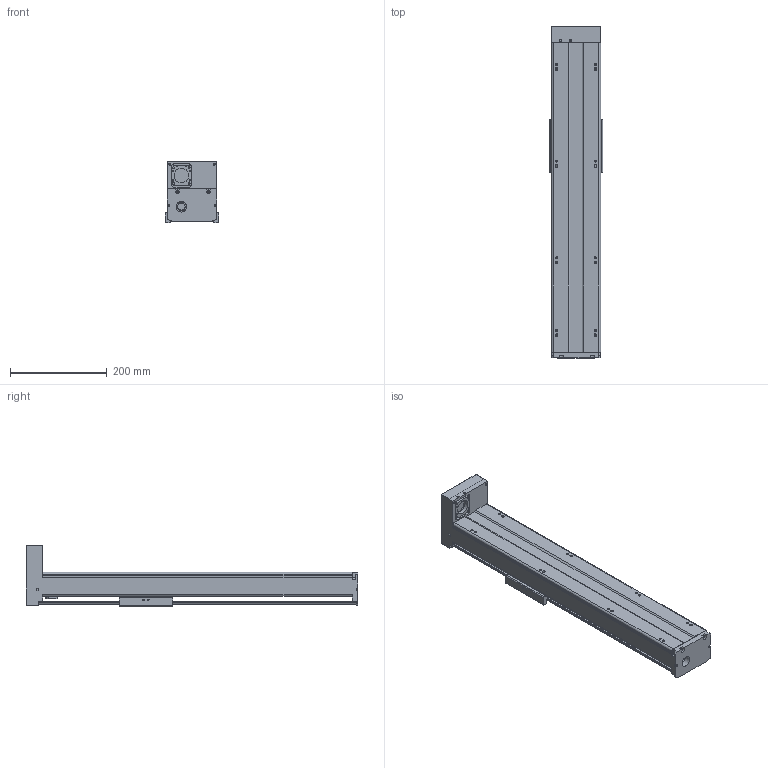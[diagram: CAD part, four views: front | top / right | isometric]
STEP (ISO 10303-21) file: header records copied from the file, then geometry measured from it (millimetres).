
FILE_DESCRIPTION(/* description */ (''),/* implementation_level */ '2;1');
FILE_NAME(/* name */ 'TKA100-FD-450_asm1.stp',/* time_stamp */ '2016-05-16T15:19:46+08:00',/* author */ (''),/* organization */ (''),/* preprocessor_version */ 'ST-DEVELOPER v15',/* originating_system */ 'SIEMENS PLM Software NX 8.5',/* authorisation */ '');
FILE_SCHEMA (('AUTOMOTIVE_DESIGN { 1 0 10303 214 3 1 1 1 }'));
Length unit declared in the file: millimetre
Products named in the file (3): 200-02; 200-01; TKA100-FD-450_asm1
Assembly tree (2 placements, depth 2):
  TKA100-FD-450_asm1
    200-01
    200-02
Bounding box: 110 x 686 x 127 mm (x, y, z)
Volume: 1587116.8 mm3; surface area: 552961.3 mm2
Topology: 2 solids, 9 shells, 771 faces, 1998 edges, 1295 vertices
Faces by surface type: cylinder 297, plane 292, cone 118, torus 38, bspline 26
Full cylindrical faces by diameter (mm): 2.5 x6, 2.6 x8, 3.3 x10, 3.4 x8, 3.8 x8, 4.2 x17, 4.3 x4, 4.5 x8, 5 x1, 5.5 x18, 6.6 x4, 8 x5, 9 x4, 10 x10, 11 x4, 12 x7, 15.3 x1, 16 x1, 22 x1, 24 x1, 28 x4, 30 x1, 33 x1
Entity records: 27892 total; most frequent: CARTESIAN_POINT 9962, DIRECTION 3738, ORIENTED_EDGE 3424, EDGE_CURVE 1712, AXIS2_PLACEMENT_3D 1488, VERTEX_POINT 1217, EDGE_LOOP 1092, ADVANCED_FACE 771
